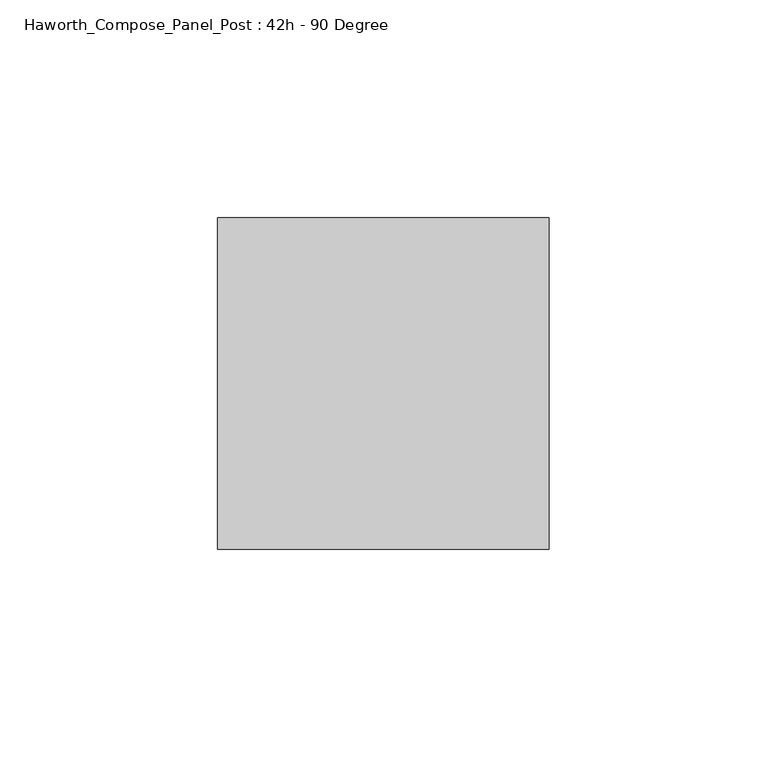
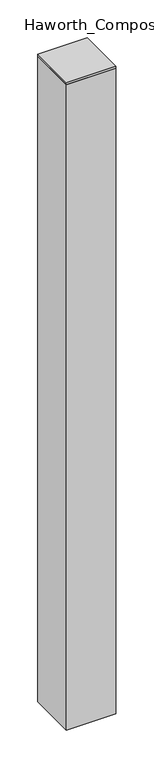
"""IFC4 building model written with IfcOpenShell, lengths in millimetres: furniture geometry, Haworth_Compose_Panel_Post : 42h - 90 Degree."""

from ifc_helpers import new_model, si_unit, frame, origin, place, context, project, spatial, polyline, outline, extrude, source, transform, mapped, element, save


def haworth_compose_panel_post_42h_90_degree_3cbd3f14(model_context):
    return source(origin(), model_context, "Body", "SweptSolid", [
        extrude(outline(polyline([(0.0, -38.1), (0.0, 38.1), (76.2, 38.1), (76.2, -38.1), (0.0, -38.1)])), frame((0.0, 0.0, 1060.45), z_axis=(0.0, 0.0, 1.0), x_axis=(1.0, 0.0, 0.0)), (0.0, 0.0, 1.0), 3.175),
        extrude(outline(polyline([(76.2, -38.1), (0.0, -38.1), (0.0, 38.1), (76.2, 38.1), (76.2, -38.1)])), frame((0.0, 0.0, 12.7), z_axis=(0.0, 0.0, 1.0), x_axis=(1.0, 0.0, 0.0)), (0.0, 0.0, 1.0), 1047.75),
    ])


if __name__ == "__main__":
    model = new_model("IFC4")
    model_context = context("Model", 3, world=origin())
    ifc_project = project(units=[si_unit("LENGTHUNIT", "METRE", prefix="MILLI")], contexts=[model_context])
    site = spatial("IfcSite", under=ifc_project)
    building = spatial("IfcBuilding", under=site)
    placement = place(None, origin())
    haworth_compose_panel_post_42h_90_degree_shape = haworth_compose_panel_post_42h_90_degree_3cbd3f14(model_context)
    element("IfcFurniture", 1, ObjectType="Haworth_Compose_Panel_Post : 42h - 90 Degree", at=placement, inside=building, context=model_context, shape_type="MappedRepresentation", body=[
        mapped(haworth_compose_panel_post_42h_90_degree_shape, transform((0.0, 0.0, 0.0), x_axis=(1.0, 0.0, 0.0), y_axis=(0.0, 1.0, 0.0), z_axis=(0.0, 0.0, 1.0))),
    ])
    save(model, "model.ifc")
